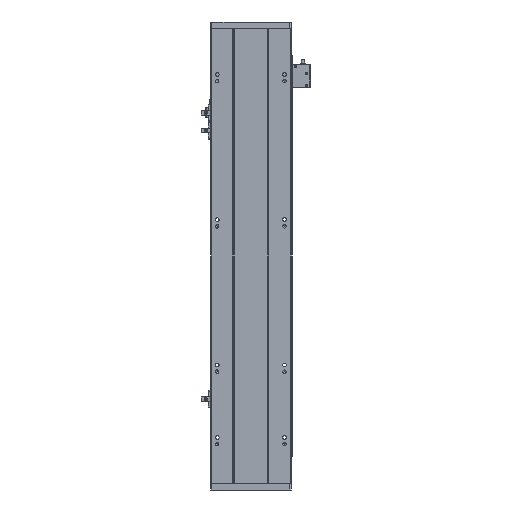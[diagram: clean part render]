
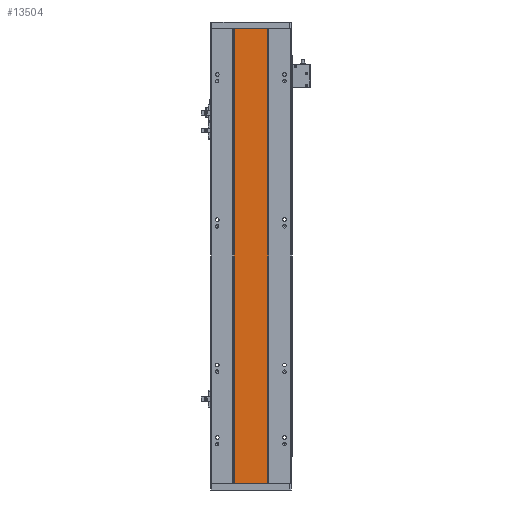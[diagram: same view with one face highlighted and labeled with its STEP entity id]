
A CAD part, front view. The second image highlights one B-rep face of the part: STEP entity #13504.
In plain terms, the highlighted planar face has unit normal (0, -1, 0).
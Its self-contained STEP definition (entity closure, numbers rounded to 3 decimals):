
#53 = CARTESIAN_POINT ( 'NONE',  ( 183.063, 115.96, 676. ) ) ;
#721 = ORIENTED_EDGE ( 'NONE', *, *, #11155, .F. ) ;
#1469 = CARTESIAN_POINT ( 'NONE',  ( 133.07, 115.96, 676. ) ) ;
#1868 = LINE ( 'NONE', #19910, #12731 ) ;
#2654 = LINE ( 'NONE', #9634, #12929 ) ;
#3935 = EDGE_LOOP ( 'NONE', ( #16272, #721, #24112, #13218 ) ) ;
#5119 = CARTESIAN_POINT ( 'NONE',  ( 133.07, 115.96, 0. ) ) ;
#7094 = DIRECTION ( 'NONE',  ( 0., 0., -1. ) ) ;
#7834 = VERTEX_POINT ( 'NONE', #18361 ) ;
#8677 = VERTEX_POINT ( 'NONE', #5119 ) ;
#9634 = CARTESIAN_POINT ( 'NONE',  ( 183.063, 115.96, 676. ) ) ;
#10267 = DIRECTION ( 'NONE',  ( 1., 0., 0. ) ) ;
#11155 = EDGE_CURVE ( 'NONE', #18707, #7834, #2654, .T. ) ;
#11938 = FACE_OUTER_BOUND ( 'NONE', #3935, .T. ) ;
#12731 = VECTOR ( 'NONE', #10267, 1000. ) ;
#12929 = VECTOR ( 'NONE', #13539, 1000. ) ;
#12947 = VERTEX_POINT ( 'NONE', #22876 ) ;
#13218 = ORIENTED_EDGE ( 'NONE', *, *, #13856, .T. ) ;
#13362 = DIRECTION ( 'NONE',  ( 1., 0., 0. ) ) ;
#13504 = ADVANCED_FACE ( 'NONE', ( #11938 ), #21178, .F. ) ;
#13539 = DIRECTION ( 'NONE',  ( 0., 0., -1. ) ) ;
#13856 = EDGE_CURVE ( 'NONE', #12947, #8677, #20986, .T. ) ;
#15246 = VECTOR ( 'NONE', #7094, 1000. ) ;
#15448 = CARTESIAN_POINT ( 'NONE',  ( 0., 115.96, 676. ) ) ;
#15778 = EDGE_CURVE ( 'NONE', #12947, #18707, #22674, .T. ) ;
#16272 = ORIENTED_EDGE ( 'NONE', *, *, #17594, .T. ) ;
#17255 = CARTESIAN_POINT ( 'NONE',  ( 0., 115.96, 676. ) ) ;
#17594 = EDGE_CURVE ( 'NONE', #8677, #7834, #1868, .T. ) ;
#18361 = CARTESIAN_POINT ( 'NONE',  ( 183.063, 115.96, 0. ) ) ;
#18707 = VERTEX_POINT ( 'NONE', #53 ) ;
#18791 = VECTOR ( 'NONE', #13362, 1000. ) ;
#19335 = DIRECTION ( 'NONE',  ( 0., 1., 0. ) ) ;
#19910 = CARTESIAN_POINT ( 'NONE',  ( 0., 115.96, 0. ) ) ;
#20986 = LINE ( 'NONE', #1469, #15246 ) ;
#21178 = PLANE ( 'NONE',  #23301 ) ;
#21333 = DIRECTION ( 'NONE',  ( -1., 0., 0. ) ) ;
#22674 = LINE ( 'NONE', #17255, #18791 ) ;
#22876 = CARTESIAN_POINT ( 'NONE',  ( 133.07, 115.96, 676. ) ) ;
#23301 = AXIS2_PLACEMENT_3D ( 'NONE', #15448, #19335, #21333 ) ;
#24112 = ORIENTED_EDGE ( 'NONE', *, *, #15778, .F. ) ;
